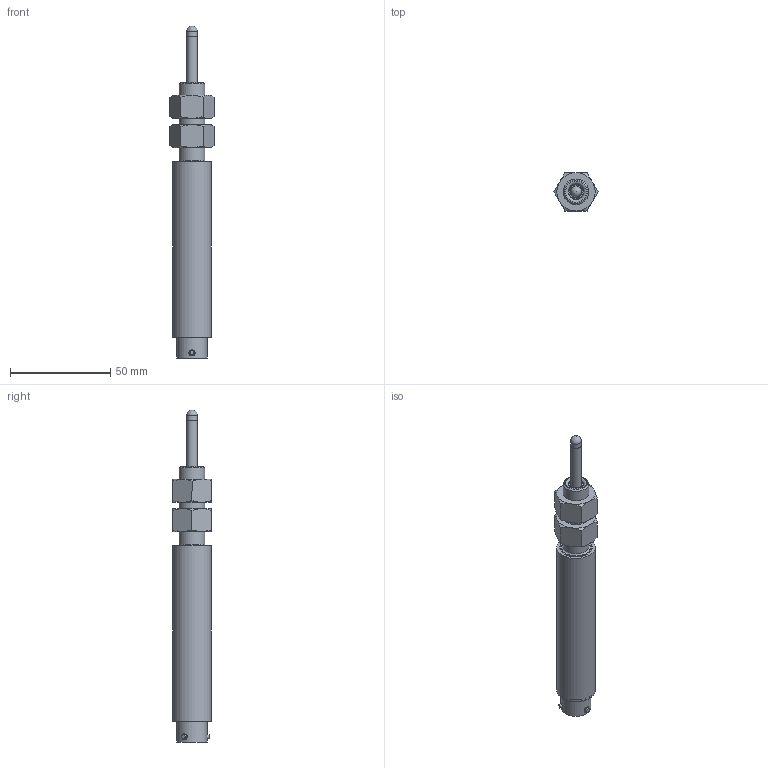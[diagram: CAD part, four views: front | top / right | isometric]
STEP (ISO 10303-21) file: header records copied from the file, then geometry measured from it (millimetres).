
FILE_DESCRIPTION(/* description */ (''),/* implementation_level */ '2;1');
FILE_NAME(/* name */ 'GH-750-I-250 ASS''Y.iam.stp',/* time_stamp */ '2023-11-10T12:31:38-05:00',/* author */ ('Justin'),/* organization */ (''),/* preprocessor_version */ 'ST-DEVELOPER v20',/* originating_system */ 'Autodesk Inventor 2024',/* authorisation */ '');
FILE_SCHEMA (('AUTOMOTIVE_DESIGN { 1 0 10303 214 3 1 1 }'));
Length unit declared in the file: inch
Products named in the file (4): GH-750-D-125 ASS'Y; GH-750-D-125 HOUSING_SW; GH-750-D-125 SHAFT_SW; AS 2465 - 1/2  UNF
Assembly tree (4 placements, depth 2):
  GH-750-D-125 ASS'Y
    GH-750-D-125 HOUSING_SW
    GH-750-D-125 SHAFT_SW
    AS 2465 - 1/2  UNF  x2
Bounding box: 22 x 19.05 x 165.25 mm (x, y, z)
Volume: 19334.4 mm3; surface area: 20824.1 mm2
Topology: 12 solids, 12 shells, 184 faces, 366 edges, 233 vertices
Faces by surface type: plane 75, cylinder 59, cone 44, torus 4, bspline 1, sphere 1
Full cylindrical faces by diameter (mm): 0.762 x12, 2.032 x3, 2.845 x3, 3.048 x3, 4.826 x2, 5.334 x4, 5.397 x1, 7.671 x2, 7.874 x1, 11.328 x2, 12.7 x1, 13.208 x1, 14.986 x1, 15.748 x2, 16.51 x1, 17.069 x1, 18.034 x1, 18.415 x3, 19.05 x1
Entity records: 4743 total; most frequent: CARTESIAN_POINT 975, DIRECTION 780, ORIENTED_EDGE 628, AXIS2_PLACEMENT_3D 331, EDGE_CURVE 314, EDGE_LOOP 204, VERTEX_POINT 204, CIRCLE 163
